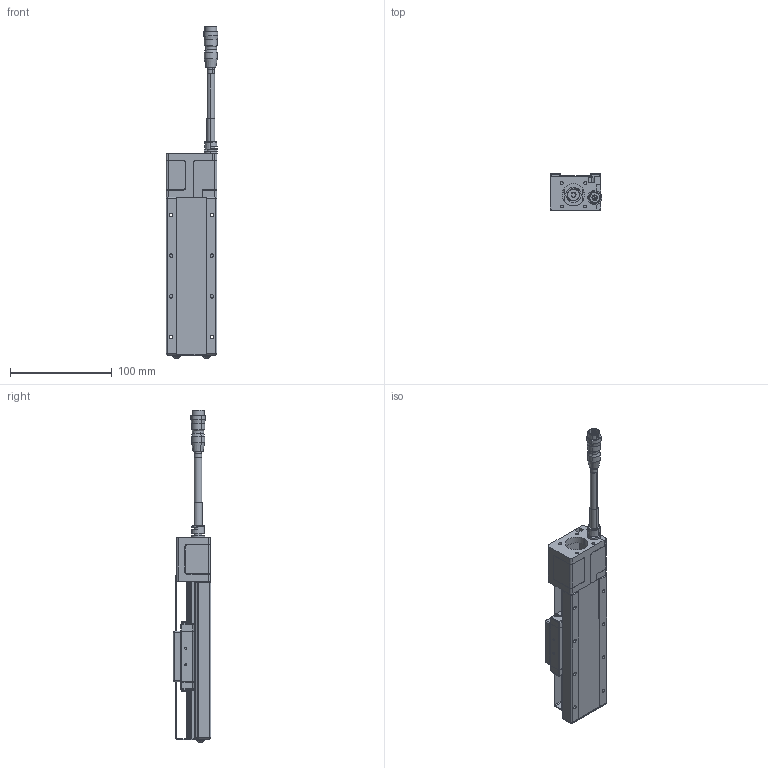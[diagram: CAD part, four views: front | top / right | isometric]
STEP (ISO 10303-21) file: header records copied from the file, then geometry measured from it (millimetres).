
FILE_DESCRIPTION (( 'STEP AP203' ), '1' );
FILE_NAME ('CXC5075-S2?N(28框無馬達).', '2024-01-05T02:49:39', ( '' ), ( '' ), 'SwSTEP 2.0', 'SolidWorks 2019', '' );
FILE_SCHEMA (( 'CONFIG_CONTROL_DESIGN' ));
Products named in the file (9): CXC5075-S2OPAN-303_50; SD04B006_SD04B006-SCM435(化鎳); SC03B008_SUS304(鍍鋅黑); HR10A-10J-12P_帶線示意; CXC5075-S2?N(28框無馬達); CXC50-102-10; SG02B004_SCM435(化鎳); Group2^CXC5075-S2?N(28框無馬達)_defeature_GMT; Group1^CXC5075-S2?N(28框無馬達)_defeature_GMT
Assembly tree (14 placements, depth 2):
  CXC5075-S2?N(28框無馬達)
    Group1^CXC5075-S2?N(28框無馬達)_defeature_GMT
    Group2^CXC5075-S2?N(28框無馬達)_defeature_GMT
    CXC5075-S2OPAN-303_50
    SD04B006_SD04B006-SCM435(化鎳)  x2
    CXC50-102-10  x2
    SC03B008_SUS304(鍍鋅黑)  x4
    SG02B004_SCM435(化鎳)  x2
    HR10A-10J-12P_帶線示意
Bounding box: 51 x 37 x 326.7 mm (x, y, z)
Volume: 47873.6 mm3; surface area: 97516.4 mm2
Topology: 15 solids, 17 shells, 5797 faces, 14821 edges, 9068 vertices
Faces by surface type: plane 2641, bspline 1342, cylinder 1225, cone 213, torus 204, sphere 172
Entity records: 186448 total; most frequent: CARTESIAN_POINT 61837, ORIENTED_EDGE 28116, DIRECTION 21347, EDGE_CURVE 14058, VERTEX_POINT 8744, LINE 7367, VECTOR 7367, AXIS2_PLACEMENT_3D 6990
